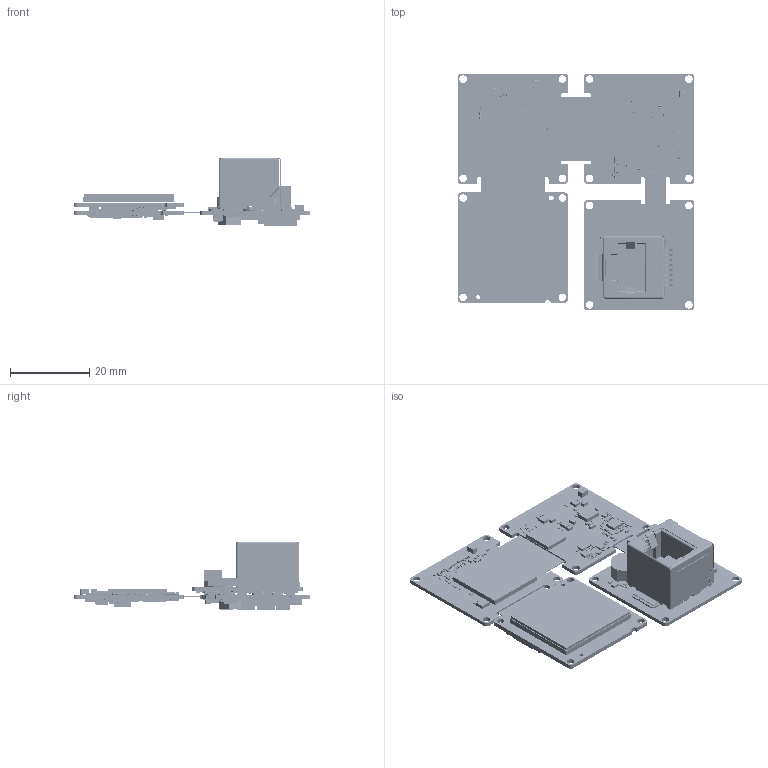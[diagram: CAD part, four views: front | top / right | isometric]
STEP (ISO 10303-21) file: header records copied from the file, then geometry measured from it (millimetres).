
FILE_DESCRIPTION (( 'STEP AP203' ), '1' );
FILE_NAME ('257-604-A_PHX28 NO MOUNT_OPEN.STEP', '2019-03-01T20:36:06', ( '' ), ( '' ), 'SwSTEP 2.0', 'SolidWorks 2017', '' );
FILE_SCHEMA (( 'CONFIG_CONTROL_DESIGN' ));
Products named in the file (1): 257-604-A_PHX28 NO MOUNT_OPEN
Bounding box: 59.65 x 59.65 x 17.27 mm (x, y, z)
Surface area: 17493.1 mm2 (no closed solid volume)
Topology: 0 solids, 674 shells, 22471 faces, 52760 edges, 27945 vertices
Faces by surface type: plane 9793, cylinder 8295, bspline 4359, cone 24
Entity records: 643317 total; most frequent: CARTESIAN_POINT 167585, DIRECTION 100372, ORIENTED_EDGE 96884, EDGE_CURVE 48446, AXIS2_PLACEMENT_3D 34423, VECTOR 31526, LINE 31526, VERTEX_POINT 27945
